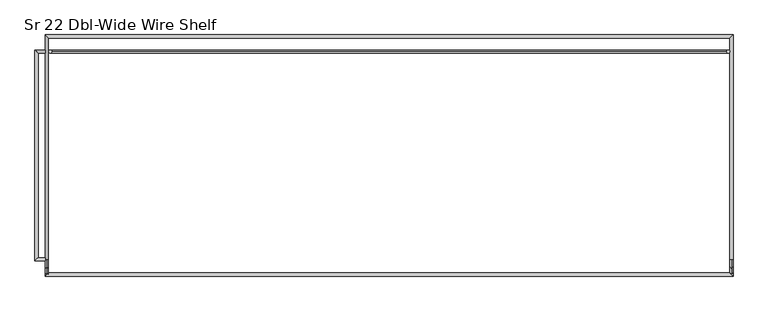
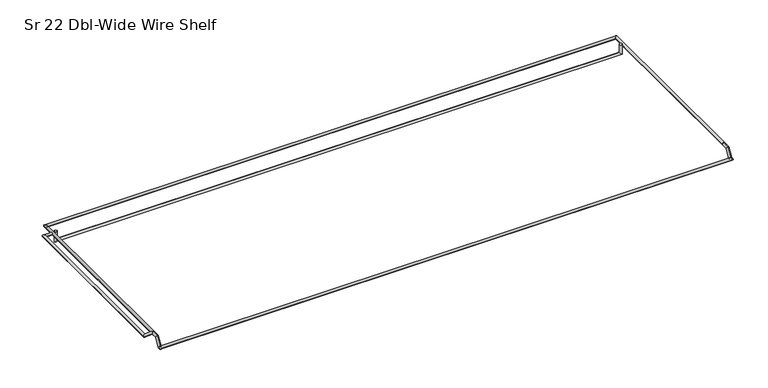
"""IFC4 building model written with IfcOpenShell, lengths in millimetres: furniture geometry, HermanMiller_Carts_CT521_CartShelf : Sr 22 Dbl-Wide Wire Shelf."""

from ifc_helpers import new_model, si_unit, frame, origin, place, context, project, spatial, circle_curve, ellipse_curve, source, transform, mapped, element, save
from ifc_brep_helpers import plane_surface, cylinder_surface, advanced_brep


def sr_22_dbl_wide_wire_shelf_ef2946c3(model_context):
    return source(origin(), model_context, "Body", "AdvancedBrep", [
        advanced_brep(
        [(733.4732983, 136.525, 1558.9377), (738.2357983, 136.525, 1558.9377), (733.4732983, 136.525, 1543.6596), (738.2357983, 136.525, 1538.8971), (-295.1886017, 136.525, 1543.6596), (-299.9511017, 136.525, 1538.8971), (-295.1886017, 136.525, 1558.9377), (-299.9511017, 136.525, 1558.9377)],
        [
            (0, 1, circle_curve(frame((735.8545483, 136.525, 1558.9377), z_axis=(0.0, 0.0, 1.0), x_axis=(1.0, 0.0, 0.0)), 2.38125)),
            (1, 0, circle_curve(frame((735.8545483, 136.525, 1558.9377), z_axis=(0.0, 0.0, 1.0), x_axis=(1.0, 0.0, 0.0)), 2.38125)),
            (0, 2),
            (2, 3, ellipse_curve(frame((735.8545483, 136.525, 1541.27835), z_axis=(0.7071067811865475, 0.0, 0.7071067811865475), x_axis=(-0.7071067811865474, 0.0, 0.7071067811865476)), 3.367596, 2.38125)),
            (3, 1),
            (3, 2, ellipse_curve(frame((735.8545483, 136.525, 1541.27835), z_axis=(0.7071067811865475, 0.0, 0.7071067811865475), x_axis=(-0.7071067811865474, 0.0, 0.7071067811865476)), 3.367596, 2.38125)),
            (2, 4),
            (4, 5, ellipse_curve(frame((-297.5698517, 136.525, 1541.27835), z_axis=(0.7071067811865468, 0.0, -0.7071067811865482), x_axis=(0.7071067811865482, 0.0, 0.7071067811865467)), 3.367596, 2.38125)),
            (5, 3),
            (5, 4, ellipse_curve(frame((-297.5698517, 136.525, 1541.27835), z_axis=(0.7071067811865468, 0.0, -0.7071067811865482), x_axis=(0.7071067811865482, 0.0, 0.7071067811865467)), 3.367596, 2.38125)),
            (6, 7, circle_curve(frame((-297.5698517, 136.525, 1558.9377), z_axis=(0.0, 0.0, 1.0), x_axis=(-1.0, 0.0, 0.0)), 2.38125)),
            (7, 6, circle_curve(frame((-297.5698517, 136.525, 1558.9377), z_axis=(0.0, 0.0, 1.0), x_axis=(-1.0, 0.0, 0.0)), 2.38125)),
            (4, 6),
            (7, 5),
        ],
        [
            plane_surface(frame((735.8545483, 136.525, 1558.9377), z_axis=(0.0, 0.0, 1.0), x_axis=(0.0, -1.0, 0.0))),
            cylinder_surface(frame((735.8545483, 136.525, 1558.9377), z_axis=(0.0, 0.0, 1.0), x_axis=(1.0, 0.0, 0.0)), 2.38125),
            cylinder_surface(frame((735.8545483, 136.525, 1541.27835), z_axis=(1.0, 0.0, 0.0), x_axis=(0.0, 0.0, -1.0)), 2.38125),
            plane_surface(frame((-297.5698517, 136.525, 1558.9377), z_axis=(0.0, 0.0, 1.0), x_axis=(0.0, -1.0, 0.0))),
            cylinder_surface(frame((-297.5698517, 136.525, 1541.27835), z_axis=(0.0, 0.0, -1.0), x_axis=(-1.0, 0.0, 0.0)), 2.38125),
        ],
        [
            (0, [[1, 2]]),
            (1, [[-1, 3, 4, 5]]),
            (1, [[-2, -5, 6, -3]]),
            (2, [[-4, 7, 8, 9]]),
            (2, [[-6, -9, 10, -7]]),
            (3, [[11, 12]]),
            (4, [[-8, 13, -12, 14]]),
            (4, [[-10, -14, -11, -13]]),
        ],
    ),
        advanced_brep(
        [(-305.0526917, -178.26736, 1556.5501), (-305.0526917, -183.04256, 1556.5501), (-305.0526917, 133.81736, 1556.5501), (-305.0526917, 138.59256, 1556.5501), (-316.1524917, -178.26736, 1556.5501), (-320.9276917, -183.04256, 1556.5501), (-316.1524917, 133.81736, 1556.5501), (-320.9276917, 138.59256, 1556.5501)],
        [
            (0, 1, circle_curve(frame((-305.0526917, -180.65496, 1556.5501), z_axis=(1.0, 0.0, 0.0), x_axis=(0.0, -1.0, 0.0)), 2.3876)),
            (1, 0, circle_curve(frame((-305.0526917, -180.65496, 1556.5501), z_axis=(1.0, 0.0, 0.0), x_axis=(0.0, -1.0, 0.0)), 2.3876)),
            (2, 3, circle_curve(frame((-305.0526917, 136.20496, 1556.5501), z_axis=(1.0, 0.0, 0.0), x_axis=(0.0, 1.0, 0.0)), 2.3876)),
            (3, 2, circle_curve(frame((-305.0526917, 136.20496, 1556.5501), z_axis=(1.0, 0.0, 0.0), x_axis=(0.0, 1.0, 0.0)), 2.3876)),
            (0, 4),
            (4, 5, ellipse_curve(frame((-318.5400917, -180.65496, 1556.5501), z_axis=(0.7071067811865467, -0.7071067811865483, 0.0), x_axis=(0.7071067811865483, 0.7071067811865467, 0.0)), 3.3765763, 2.3876)),
            (5, 1),
            (5, 4, ellipse_curve(frame((-318.5400917, -180.65496, 1556.5501), z_axis=(0.7071067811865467, -0.7071067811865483, 0.0), x_axis=(0.7071067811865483, 0.7071067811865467, 0.0)), 3.3765763, 2.3876)),
            (4, 6),
            (6, 7, ellipse_curve(frame((-318.5400917, 136.20496, 1556.5501), z_axis=(-0.7071067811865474, -0.7071067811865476, 0.0), x_axis=(0.7071067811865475, -0.7071067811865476, 0.0)), 3.3765763, 2.3876)),
            (7, 5),
            (7, 6, ellipse_curve(frame((-318.5400917, 136.20496, 1556.5501), z_axis=(-0.7071067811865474, -0.7071067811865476, 0.0), x_axis=(0.7071067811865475, -0.7071067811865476, 0.0)), 3.3765763, 2.3876)),
            (6, 2),
            (3, 7),
        ],
        [
            plane_surface(frame((-305.0526917, -180.65496, 1556.5501), z_axis=(1.0, 0.0, 0.0), x_axis=(0.0, 0.0, 1.0))),
            plane_surface(frame((-305.0526917, 136.20496, 1556.5501), z_axis=(1.0, 0.0, 0.0), x_axis=(0.0, 0.0, 1.0))),
            cylinder_surface(frame((-305.0526917, -180.65496, 1556.5501), z_axis=(1.0, 0.0, 0.0), x_axis=(0.0, -1.0, 0.0)), 2.3876),
            cylinder_surface(frame((-318.5400917, -180.65496, 1556.5501), z_axis=(0.0, -1.0, 0.0), x_axis=(-1.0, 0.0, 0.0)), 2.3876),
            cylinder_surface(frame((-318.5400917, 136.20496, 1556.5501), z_axis=(-1.0, 0.0, 0.0), x_axis=(0.0, 1.0, 0.0)), 2.3876),
        ],
        [
            (0, [[1, 2]]),
            (1, [[3, 4]]),
            (2, [[-1, 5, 6, 7]]),
            (2, [[-2, -7, 8, -5]]),
            (3, [[-6, 9, 10, 11]]),
            (3, [[-8, -11, 12, -9]]),
            (4, [[-10, 13, -4, 14]]),
            (4, [[-12, -14, -3, -13]]),
        ],
    ),
        advanced_brep(
        [(738.5621883, -201.5998, 1541.2847), (743.3373883, -201.5998, 1541.2847), (743.3373883, -206.375, 1541.2847), (-300.2774917, -201.5998, 1541.2847), (-305.0526917, -206.375, 1541.2847), (-305.0526917, -201.5998, 1541.2847)],
        [
            (0, 1, circle_curve(frame((740.9497883, -201.5998, 1541.2847), z_axis=(0.0, 1.0, 0.0), x_axis=(1.0, 0.0, 0.0)), 2.3876)),
            (1, 0, circle_curve(frame((740.9497883, -201.5998, 1541.2847), z_axis=(0.0, 1.0, 0.0), x_axis=(1.0, 0.0, 0.0)), 2.3876)),
            (0, 2, ellipse_curve(frame((740.9497883, -203.9874, 1541.2847), z_axis=(0.7071067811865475, 0.7071067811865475, 0.0), x_axis=(-0.7071067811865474, 0.7071067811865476, 0.0)), 3.3765763, 2.3876)),
            (2, 1),
            (2, 0, ellipse_curve(frame((740.9497883, -203.9874, 1541.2847), z_axis=(0.7071067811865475, 0.7071067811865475, 0.0), x_axis=(-0.7071067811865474, 0.7071067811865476, 0.0)), 3.3765763, 2.3876)),
            (0, 3),
            (3, 4, ellipse_curve(frame((-302.6650917, -203.9874, 1541.2847), z_axis=(0.7071067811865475, -0.7071067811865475, 0.0), x_axis=(0.7071067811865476, 0.7071067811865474, 0.0)), 3.3765763, 2.3876)),
            (4, 2),
            (4, 3, ellipse_curve(frame((-302.6650917, -203.9874, 1541.2847), z_axis=(0.7071067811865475, -0.7071067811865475, 0.0), x_axis=(0.7071067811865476, 0.7071067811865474, 0.0)), 3.3765763, 2.3876)),
            (3, 5, circle_curve(frame((-302.6650917, -201.5998, 1541.2847), z_axis=(0.0, 1.0, 0.0), x_axis=(-1.0, 0.0, 0.0)), 2.3876)),
            (5, 3, circle_curve(frame((-302.6650917, -201.5998, 1541.2847), z_axis=(0.0, 1.0, 0.0), x_axis=(-1.0, 0.0, 0.0)), 2.3876)),
            (5, 4),
        ],
        [
            plane_surface(frame((740.9497883, -201.5998, 1541.2847), z_axis=(0.0, 1.0, 0.0), x_axis=(0.0, 0.0, 1.0))),
            cylinder_surface(frame((740.9497883, -201.5998, 1541.2847), z_axis=(0.0, 1.0, 0.0), x_axis=(1.0, 0.0, 0.0)), 2.3876),
            cylinder_surface(frame((740.9497883, -203.9874, 1541.2847), z_axis=(1.0, 0.0, 0.0), x_axis=(0.0, -1.0, 0.0)), 2.3876),
            plane_surface(frame((-302.6650917, -201.5998, 1541.2847), z_axis=(0.0, 1.0, 0.0), x_axis=(0.0, 0.0, 1.0))),
            cylinder_surface(frame((-302.6650917, -203.9874, 1541.2847), z_axis=(0.0, -1.0, 0.0), x_axis=(-1.0, 0.0, 0.0)), 2.3876),
        ],
        [
            (0, [[1, 2]]),
            (1, [[-1, 3, 4]]),
            (1, [[-2, -4, 5]]),
            (2, [[-3, 6, 7, 8]]),
            (2, [[-5, -8, 9, -6]]),
            (3, [[10, 11]]),
            (4, [[-7, -11, 12]]),
            (4, [[-9, -12, -10]]),
        ],
    ),
        advanced_brep(
        [(743.3373883, -180.65496, 1556.5501), (738.5621883, -180.65496, 1556.5501), (743.3373883, 161.925, 1556.5501), (738.5621883, 157.1498, 1556.5501), (-305.0526917, 161.925, 1556.5501), (-300.2774917, 157.1498, 1556.5501), (-305.0526917, -180.65496, 1556.5501), (-300.2774917, -180.65496, 1556.5501)],
        [
            (0, 1, circle_curve(frame((740.9497883, -180.65496, 1556.5501), z_axis=(0.0, -1.0, 0.0), x_axis=(-1.0, 0.0, 0.0)), 2.3876)),
            (1, 0, circle_curve(frame((740.9497883, -180.65496, 1556.5501), z_axis=(0.0, -1.0, 0.0), x_axis=(-1.0, 0.0, 0.0)), 2.3876)),
            (0, 2),
            (2, 3, ellipse_curve(frame((740.9497883, 159.5374, 1556.5501), z_axis=(0.7071067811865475, -0.7071067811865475, 0.0), x_axis=(-0.7071067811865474, -0.7071067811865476, 0.0)), 3.3765763, 2.3876)),
            (3, 1),
            (3, 2, ellipse_curve(frame((740.9497883, 159.5374, 1556.5501), z_axis=(0.7071067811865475, -0.7071067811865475, 0.0), x_axis=(-0.7071067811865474, -0.7071067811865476, 0.0)), 3.3765763, 2.3876)),
            (2, 4),
            (4, 5, ellipse_curve(frame((-302.6650917, 159.5374, 1556.5501), z_axis=(0.7071067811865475, 0.7071067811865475, 0.0), x_axis=(0.7071067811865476, -0.7071067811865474, 0.0)), 3.3765763, 2.3876)),
            (5, 3),
            (5, 4, ellipse_curve(frame((-302.6650917, 159.5374, 1556.5501), z_axis=(0.7071067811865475, 0.7071067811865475, 0.0), x_axis=(0.7071067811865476, -0.7071067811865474, 0.0)), 3.3765763, 2.3876)),
            (6, 7, circle_curve(frame((-302.6650917, -180.65496, 1556.5501), z_axis=(0.0, -1.0, 0.0), x_axis=(1.0, 0.0, 0.0)), 2.3876)),
            (7, 6, circle_curve(frame((-302.6650917, -180.65496, 1556.5501), z_axis=(0.0, -1.0, 0.0), x_axis=(1.0, 0.0, 0.0)), 2.3876)),
            (4, 6),
            (7, 5),
        ],
        [
            plane_surface(frame((740.9497883, -180.65496, 1556.5501), z_axis=(0.0, -1.0, 0.0), x_axis=(0.0, 0.0, 1.0))),
            cylinder_surface(frame((740.9497883, -180.65496, 1556.5501), z_axis=(0.0, -1.0, 0.0), x_axis=(-1.0, 0.0, 0.0)), 2.3876),
            cylinder_surface(frame((740.9497883, 159.5374, 1556.5501), z_axis=(1.0, 0.0, 0.0), x_axis=(0.0, -1.0, 0.0)), 2.3876),
            plane_surface(frame((-302.6650917, -180.65496, 1556.5501), z_axis=(0.0, -1.0, 0.0), x_axis=(0.0, 0.0, 1.0))),
            cylinder_surface(frame((-302.6650917, 159.5374, 1556.5501), z_axis=(0.0, 1.0, 0.0), x_axis=(1.0, 0.0, 0.0)), 2.3876),
        ],
        [
            (0, [[1, 2]]),
            (1, [[-1, 3, 4, 5]]),
            (1, [[-2, -5, 6, -3]]),
            (2, [[-4, 7, 8, 9]]),
            (2, [[-6, -9, 10, -7]]),
            (3, [[11, 12]]),
            (4, [[-8, 13, -12, 14]]),
            (4, [[-10, -14, -11, -13]]),
        ],
    ),
        advanced_brep(
        [(740.9497883, -180.65496, 1558.9377), (740.9497883, -180.65496, 1554.1625), (740.9497883, -191.442659, 1554.1625), (740.9497883, -194.205541, 1558.9377), (740.9497883, -200.218359, 1538.8971), (740.9497883, -202.981241, 1543.6723), (740.9497883, -203.9874, 1543.6723), (740.9497883, -203.9874, 1538.8971)],
        [
            (0, 1, circle_curve(frame((740.9497883, -180.65496, 1556.5501), z_axis=(0.0, 1.0, 0.0), x_axis=(0.0, 0.0, -1.0)), 2.3876)),
            (1, 0, circle_curve(frame((740.9497883, -180.65496, 1556.5501), z_axis=(0.0, 1.0, 0.0), x_axis=(0.0, 0.0, -1.0)), 2.3876)),
            (1, 2),
            (2, 3, ellipse_curve(frame((740.9497883, -192.8241, 1556.5501), z_axis=(0.0, 0.8655604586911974, 0.5008044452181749), x_axis=(0.0, 0.5008044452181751, -0.8655604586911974)), 2.7584439, 2.3876)),
            (3, 0),
            (3, 2, ellipse_curve(frame((740.9497883, -192.8241, 1556.5501), z_axis=(0.0, 0.8655604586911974, 0.5008044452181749), x_axis=(0.0, 0.5008044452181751, -0.8655604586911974)), 2.7584439, 2.3876)),
            (2, 4),
            (4, 5, ellipse_curve(frame((740.9497883, -201.5998, 1541.2847), z_axis=(0.0, 0.8655604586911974, 0.5008044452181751), x_axis=(0.0, -0.5008044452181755, 0.8655604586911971)), 2.7584439, 2.3876)),
            (5, 3),
            (5, 4, ellipse_curve(frame((740.9497883, -201.5998, 1541.2847), z_axis=(0.0, 0.8655604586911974, 0.5008044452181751), x_axis=(0.0, -0.5008044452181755, 0.8655604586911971)), 2.7584439, 2.3876)),
            (6, 7, circle_curve(frame((740.9497883, -203.9874, 1541.2847), z_axis=(0.0, -1.0, 0.0), x_axis=(0.0, 0.0, -1.0)), 2.3876)),
            (7, 6, circle_curve(frame((740.9497883, -203.9874, 1541.2847), z_axis=(0.0, -1.0, 0.0), x_axis=(0.0, 0.0, -1.0)), 2.3876)),
            (4, 7),
            (6, 5),
        ],
        [
            plane_surface(frame((740.9497883, -180.65496, 1556.5501), z_axis=(0.0, 1.0, 0.0), x_axis=(1.0, 0.0, 0.0))),
            cylinder_surface(frame((740.9497883, -180.65496, 1556.5501), z_axis=(0.0, 1.0, 0.0), x_axis=(0.0, 0.0, -1.0)), 2.3876),
            cylinder_surface(frame((740.9497883, -192.8241, 1556.5501), z_axis=(0.0, 0.49838981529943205, 0.8669530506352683), x_axis=(0.0, 0.8669530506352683, -0.49838981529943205)), 2.3876),
            plane_surface(frame((740.9497883, -203.9874, 1541.2847), z_axis=(0.0, -1.0, 0.0), x_axis=(1.0, 0.0, 0.0))),
            cylinder_surface(frame((740.9497883, -201.5998, 1541.2847), z_axis=(0.0, 1.0, 0.0), x_axis=(0.0, 0.0, -1.0)), 2.3876),
        ],
        [
            (0, [[1, 2]]),
            (1, [[-2, 3, 4, 5]]),
            (1, [[-1, -5, 6, -3]]),
            (2, [[-4, 7, 8, 9]]),
            (2, [[-6, -9, 10, -7]]),
            (3, [[11, 12]]),
            (4, [[-8, 13, -11, 14]]),
            (4, [[-10, -14, -12, -13]]),
        ],
    ),
        advanced_brep(
        [(-302.6650917, -180.65496, 1554.1625), (-302.6650917, -180.65496, 1558.9377), (-302.6650917, -191.442659, 1554.1625), (-302.6650917, -194.205541, 1558.9377), (-302.6650917, -200.218359, 1538.8971), (-302.6650917, -202.981241, 1543.6723), (-302.6650917, -203.9874, 1538.8971), (-302.6650917, -203.9874, 1543.6723)],
        [
            (0, 1, circle_curve(frame((-302.6650917, -180.65496, 1556.5501), z_axis=(0.0, 1.0, 0.0), x_axis=(0.0, 0.0, 1.0)), 2.3876)),
            (1, 0, circle_curve(frame((-302.6650917, -180.65496, 1556.5501), z_axis=(0.0, 1.0, 0.0), x_axis=(0.0, 0.0, 1.0)), 2.3876)),
            (0, 2),
            (2, 3, ellipse_curve(frame((-302.6650917, -192.8241, 1556.5501), z_axis=(0.0, 0.8655604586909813, 0.5008044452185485), x_axis=(0.0, 0.5008044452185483, -0.8655604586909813)), 2.7584439, 2.3876)),
            (3, 1),
            (3, 2, ellipse_curve(frame((-302.6650917, -192.8241, 1556.5501), z_axis=(0.0, 0.8655604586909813, 0.5008044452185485), x_axis=(0.0, 0.5008044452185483, -0.8655604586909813)), 2.7584439, 2.3876)),
            (2, 4),
            (4, 5, ellipse_curve(frame((-302.6650917, -201.5998, 1541.2847), z_axis=(0.0, 0.8655604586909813, 0.5008044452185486), x_axis=(0.0, -0.5008044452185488, 0.865560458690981)), 2.7584439, 2.3876)),
            (5, 3),
            (5, 4, ellipse_curve(frame((-302.6650917, -201.5998, 1541.2847), z_axis=(0.0, 0.8655604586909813, 0.5008044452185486), x_axis=(0.0, -0.5008044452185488, 0.865560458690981)), 2.7584439, 2.3876)),
            (6, 7, circle_curve(frame((-302.6650917, -203.9874, 1541.2847), z_axis=(0.0, -1.0, 0.0), x_axis=(0.0, 0.0, 1.0)), 2.3876)),
            (7, 6, circle_curve(frame((-302.6650917, -203.9874, 1541.2847), z_axis=(0.0, -1.0, 0.0), x_axis=(0.0, 0.0, 1.0)), 2.3876)),
            (4, 6),
            (7, 5),
        ],
        [
            plane_surface(frame((-302.6650917, -180.65496, 1556.5501), z_axis=(0.0, 1.0, 0.0), x_axis=(-1.0, 0.0, 0.0))),
            cylinder_surface(frame((-302.6650917, -180.65496, 1556.5501), z_axis=(0.0, 1.0, 0.0), x_axis=(0.0, 0.0, 1.0)), 2.3876),
            cylinder_surface(frame((-302.6650917, -192.8241, 1556.5501), z_axis=(0.0, 0.49838981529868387, 0.8669530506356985), x_axis=(0.0, -0.8669530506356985, 0.49838981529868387)), 2.3876),
            plane_surface(frame((-302.6650917, -203.9874, 1541.2847), z_axis=(0.0, -1.0, 0.0), x_axis=(-1.0, 0.0, 0.0))),
            cylinder_surface(frame((-302.6650917, -201.5998, 1541.2847), z_axis=(0.0, 1.0, 0.0), x_axis=(0.0, 0.0, 1.0)), 2.3876),
        ],
        [
            (0, [[1, 2]]),
            (1, [[-1, 3, 4, 5]]),
            (1, [[-2, -5, 6, -3]]),
            (2, [[-4, 7, 8, 9]]),
            (2, [[-6, -9, 10, -7]]),
            (3, [[11, 12]]),
            (4, [[-8, 13, -12, 14]]),
            (4, [[-10, -14, -11, -13]]),
        ],
    ),
    ])


if __name__ == "__main__":
    model = new_model("IFC4")
    model_context = context("Model", 3, world=origin())
    ifc_project = project(units=[si_unit("LENGTHUNIT", "METRE", prefix="MILLI")], contexts=[model_context])
    site = spatial("IfcSite", under=ifc_project)
    building = spatial("IfcBuilding", under=site)
    placement = place(None, origin())
    sr_22_dbl_wide_wire_shelf_shape = sr_22_dbl_wide_wire_shelf_ef2946c3(model_context)
    element("IfcFurniture", 1, ObjectType="HermanMiller_Carts_CT521_CartShelf : Sr 22 Dbl-Wide Wire Shelf", at=placement, inside=building, context=model_context, shape_type="MappedRepresentation", body=[
        mapped(sr_22_dbl_wide_wire_shelf_shape, transform((0.0, 0.0, 0.0), x_axis=(1.0, 0.0, 0.0), y_axis=(0.0, 1.0, 0.0), z_axis=(0.0, 0.0, 1.0))),
    ])
    save(model, "model.ifc")
